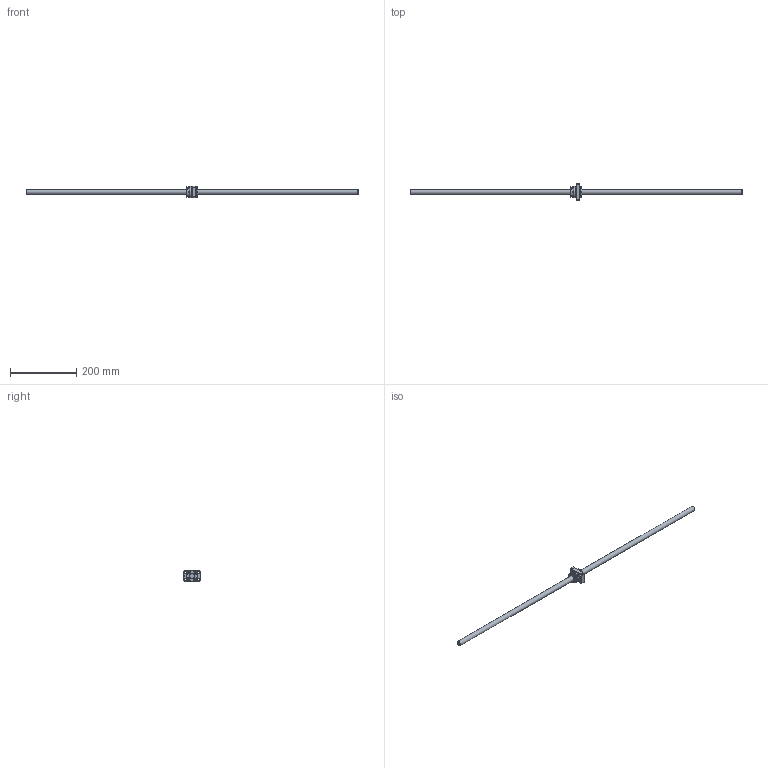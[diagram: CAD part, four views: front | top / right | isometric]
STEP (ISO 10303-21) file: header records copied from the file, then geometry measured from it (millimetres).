
FILE_DESCRIPTION( ( 'STEP AP214' ), ' ' );
FILE_NAME( 'p:/temp/worker_4/1548_2664/app_67_12015091122010346028882260eae72_000000_00_00_000000/format_0/SR1505-1000R1000C7(484).stp', '2015-09-11T20:01:03', ( '' ), ( '' ), ' ', 'PARTsolutions', ' ' );
FILE_SCHEMA( ( 'AUTOMOTIVE_DESIGN { 1 0 10303 214 1 1 1 1 }' ) );
Length unit declared in the file: millimetre
Products named in the file (3): SR1505-1000R1000C7(484); _SR1505(484)_shaft; _SR1505C7_nut
Assembly tree (2 placements, depth 2):
  SR1505-1000R1000C7(484)
    _SR1505(484)_shaft
    _SR1505C7_nut
Bounding box: 1000 x 50 x 34 mm (x, y, z)
Volume: 205150.4 mm3; surface area: 57346 mm2
Topology: 2 solids, 2 shells, 97 faces, 219 edges, 144 vertices
Faces by surface type: plane 62, cylinder 30, cone 5
Full cylindrical faces by diameter (mm): 2 x1, 4.917 x1, 5.5 x8, 9.5 x4, 15 x2, 31.5 x2, 32 x2, 33 x1, 34 x1
Entity records: 3456 total; most frequent: CARTESIAN_POINT 467, DIRECTION 460, ORIENTED_EDGE 382, EDGE_CURVE 191, AXIS2_PLACEMENT_3D 170, EDGE_LOOP 154, VERTEX_POINT 143, LINE 120
